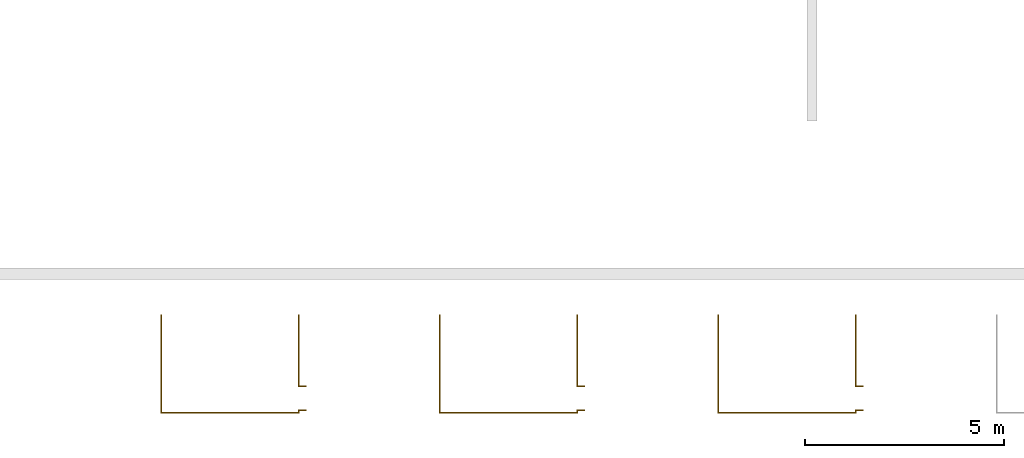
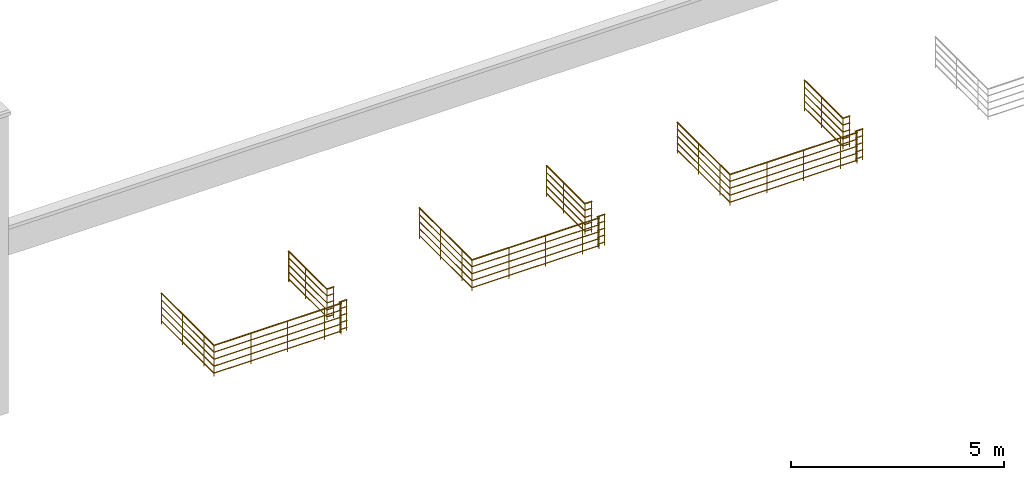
# One storey, part 2 of 6: 6 railings.
"""IFC2X3 building model written with IfcOpenShell, lengths in millimetres."""

from ifc_helpers import new_model, entity, si_unit, converted_unit, derived_unit, direction, frame, frame_2d, origin, origin_2d_with_axis, place, context, subcontext, project, spatial, circle, extrude, element, save


model = new_model("IFC2X3")

# Units and contexts
model_context = context("Model", 3, precision=0.01, world=origin(), true_north=direction((6.12303176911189e-17, 1.0)))
body_context = subcontext(model_context, "Body", "Model", "MODEL_VIEW")
ifc_project = project(units=[si_unit("LENGTHUNIT", "METRE", prefix="MILLI"), si_unit("AREAUNIT", "SQUARE_METRE"), si_unit("VOLUMEUNIT", "CUBIC_METRE"), converted_unit("PLANEANGLEUNIT", "DEGREE", entity("IfcRatioMeasure", 0.0174532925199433), si_unit("PLANEANGLEUNIT", "RADIAN"), dimensions=[0, 0, 0, 0, 0, 0, 0]), si_unit("MASSUNIT", "GRAM", prefix="KILO"), derived_unit("MASSDENSITYUNIT", [(si_unit("MASSUNIT", "GRAM", prefix="KILO"), 1), (si_unit("LENGTHUNIT", "METRE"), -3)]), si_unit("TIMEUNIT", "SECOND"), si_unit("FREQUENCYUNIT", "HERTZ"), si_unit("THERMODYNAMICTEMPERATUREUNIT", "DEGREE_CELSIUS"), derived_unit("THERMALTRANSMITTANCEUNIT", [(si_unit("MASSUNIT", "GRAM", prefix="KILO"), 1), (si_unit("THERMODYNAMICTEMPERATUREUNIT", "KELVIN"), -1), (si_unit("TIMEUNIT", "SECOND"), -3)]), derived_unit("VOLUMETRICFLOWRATEUNIT", [(si_unit("LENGTHUNIT", "METRE"), 3), (si_unit("TIMEUNIT", "SECOND"), -1)]), si_unit("ELECTRICCURRENTUNIT", "AMPERE"), si_unit("ELECTRICVOLTAGEUNIT", "VOLT"), si_unit("POWERUNIT", "WATT"), si_unit("FORCEUNIT", "NEWTON", prefix="KILO"), si_unit("ILLUMINANCEUNIT", "LUX"), si_unit("LUMINOUSFLUXUNIT", "LUMEN"), si_unit("LUMINOUSINTENSITYUNIT", "CANDELA"), derived_unit("USERDEFINED", [(si_unit("MASSUNIT", "GRAM", prefix="KILO"), -1), (si_unit("LENGTHUNIT", "METRE"), -2), (si_unit("TIMEUNIT", "SECOND"), 3), (si_unit("LUMINOUSFLUXUNIT", "LUMEN"), 1)]), derived_unit("LINEARVELOCITYUNIT", [(si_unit("LENGTHUNIT", "METRE"), 1), (si_unit("TIMEUNIT", "SECOND"), -1)]), si_unit("PRESSUREUNIT", "PASCAL"), derived_unit("USERDEFINED", [(si_unit("LENGTHUNIT", "METRE"), -2), (si_unit("MASSUNIT", "GRAM", prefix="KILO"), 1), (si_unit("TIMEUNIT", "SECOND"), -2)])], contexts=[model_context])

# Site, building, storey
site_placement = place(None, origin())
site = spatial("IfcSite", under=ifc_project, at=site_placement, Name="表面", CompositionType="ELEMENT")
building_placement = place(site_placement, origin())
building = spatial("IfcBuilding", under=site, at=building_placement, CompositionType="ELEMENT")
storey_placement = place(building_placement, frame((0.0, 0.0, 3300.0)))
storey = spatial("IfcBuildingStorey", under=building, at=storey_placement, Name="3.3000", CompositionType="ELEMENT", Elevation=3300.0)

# Railings
railing_1_placement = place(storey_placement, origin())
element("IfcRailing", 1, at=railing_1_placement, inside=storey, Name="栏杆扶手:900mm 圆管", ObjectType="栏杆扶手:900mm 圆管", PredefinedType="NOTDEFINED", context=body_context, shape_type="SweptSolid", body=[
    extrude(circle(Radius=12.5, at=origin_2d_with_axis()), frame((-24454.1764764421, -2105.099948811, 500.0), z_axis=(0.0, 0.0, 1.0), x_axis=(0.0, -1.0, 0.0)), (0.0, 0.0, 1.0), 859.999999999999),
    extrude(circle(Radius=12.5, at=origin_2d_with_axis()), frame((-25454.1764764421, -2105.099948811, 500.0), z_axis=(0.0, 0.0, 1.0), x_axis=(0.0, -1.0, 0.0)), (0.0, 0.0, 1.0), 859.999999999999),
    extrude(circle(Radius=12.5, at=origin_2d_with_axis()), frame((-26454.1764764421, -2105.099948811, 500.0), z_axis=(0.0, 0.0, 1.0), x_axis=(0.0, -1.0, 0.0)), (0.0, 0.0, 1.0), 859.999999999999),
    extrude(circle(Radius=12.5, at=frame_2d((4.69078510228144e-28, -2.70716782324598e-13), x_axis=(1.0, 0.0))), frame((-27454.1764764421, -1630.30259261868, 500.0), z_axis=(0.0, 0.0, 1.0), x_axis=(-1.0, 0.0, 0.0)), (0.0, 0.0, 1.0), 859.999999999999),
    extrude(circle(Radius=12.5, at=origin_2d_with_axis()), frame((-27454.1764764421, -630.302592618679, 500.0), z_axis=(0.0, 0.0, 1.0), x_axis=(-1.0, 0.0, 0.0)), (0.0, 0.0, 1.0), 859.999999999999),
    extrude(circle(Radius=12.5, at=frame_2d((0.0, -2.70716782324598e-13), x_axis=(1.0, 0.0))), frame((-24003.7987814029, -2045.09994881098, 500.0)), (0.0, 0.0, 1.0), 859.999999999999),
    extrude(circle(Radius=12.5, at=origin_2d_with_axis()), frame((-24003.7987814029, -2105.099948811, 500.0), z_axis=(0.0, 0.0, 1.0), x_axis=(0.0, -1.0, 0.0)), (0.0, 0.0, 1.0), 859.999999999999),
    extrude(circle(Radius=12.5, at=origin_2d_with_axis()), frame((-27454.1764764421, -2105.09994881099, 500.0), z_axis=(0.0, 0.0, 1.0), x_axis=(-1.0, 0.0, 0.0)), (0.0, 0.0, 1.0), 859.999999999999),
    extrude(circle(Radius=12.5, at=origin_2d_with_axis()), frame((-23821.2987814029, -2045.09994881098, 500.0), z_axis=(0.0, 0.0, 1.0), x_axis=(0.0, -1.0, 0.0)), (0.0, 0.0, 1.0), 859.999999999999),
    extrude(circle(Radius=12.5, at=frame_2d((1.17269627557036e-28, -6.76791955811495e-14), x_axis=(1.0, 0.0))), frame((-27454.1764764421, 357.197407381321, 500.0), z_axis=(0.0, 0.0, 1.0), x_axis=(-1.0, 0.0, 0.0)), (0.0, 0.0, 1.0), 859.999999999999),
    extrude(circle(Radius=20.0, at=origin_2d_with_axis()), frame((-27454.1764764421, -2085.09994881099, 1380.0), z_axis=(0.0, 1.0, 0.0), x_axis=(1.0, 0.0, 0.0)), (0.0, 0.0, 1.0), 2454.79735619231),
    extrude(circle(Radius=20.0, at=origin_2d_with_axis()), frame((-27474.1764764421, -2105.09994881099, 1380.0), z_axis=(1.0, 0.0, 0.0), x_axis=(0.0, 1.0, 0.0)), (0.0, 0.0, 1.0), 3450.37769503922),
    extrude(circle(Radius=20.0, at=origin_2d_with_axis()), frame((-24003.7987814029, -2125.099948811, 1380.0), z_axis=(0.0, 1.0, 0.0), x_axis=(-1.0, 0.0, 0.0)), (0.0, 0.0, 1.0), 60.0000000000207),
    extrude(circle(Radius=20.0, at=origin_2d_with_axis()), frame((-24023.7987814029, -2045.09994881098, 1380.0), z_axis=(1.0, 0.0, 0.0), x_axis=(0.0, 1.0, 0.0)), (0.0, 0.0, 1.0), 215.000000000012),
    extrude(circle(Radius=15.0, at=origin_2d_with_axis()), frame((-27454.1764764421, -2090.09994881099, 1185.0), z_axis=(0.0, 1.0, 0.0), x_axis=(1.0, 0.0, 0.0)), (0.0, 0.0, 1.0), 2459.79735619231),
    extrude(circle(Radius=15.0, at=origin_2d_with_axis()), frame((-27469.1764764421, -2105.09994881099, 1185.0), z_axis=(1.0, 0.0, 0.0), x_axis=(0.0, 1.0, 0.0)), (0.0, 0.0, 1.0), 3450.37769503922),
    extrude(circle(Radius=15.0, at=origin_2d_with_axis()), frame((-24003.7987814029, -2120.099948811, 1185.0), z_axis=(0.0, 1.0, 0.0), x_axis=(-1.0, 0.0, 0.0)), (0.0, 0.0, 1.0), 60.000000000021),
    extrude(circle(Radius=15.0, at=origin_2d_with_axis()), frame((-24018.7987814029, -2045.09994881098, 1185.0), z_axis=(1.0, 0.0, 0.0), x_axis=(0.0, 1.0, 0.0)), (0.0, 0.0, 1.0), 210.000000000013),
    extrude(circle(Radius=15.0, at=origin_2d_with_axis()), frame((-27454.1764764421, -2090.09994881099, 985.0), z_axis=(0.0, 1.0, 0.0), x_axis=(1.0, 0.0, 0.0)), (0.0, 0.0, 1.0), 2459.79735619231),
    extrude(circle(Radius=15.0, at=origin_2d_with_axis()), frame((-27469.1764764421, -2105.09994881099, 985.0), z_axis=(1.0, 0.0, 0.0), x_axis=(0.0, 1.0, 0.0)), (0.0, 0.0, 1.0), 3450.37769503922),
    extrude(circle(Radius=15.0, at=origin_2d_with_axis()), frame((-24003.7987814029, -2120.099948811, 985.0), z_axis=(0.0, 1.0, 0.0), x_axis=(-1.0, 0.0, 0.0)), (0.0, 0.0, 1.0), 60.000000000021),
    extrude(circle(Radius=15.0, at=origin_2d_with_axis()), frame((-24018.7987814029, -2045.09994881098, 985.0), z_axis=(1.0, 0.0, 0.0), x_axis=(0.0, 1.0, 0.0)), (0.0, 0.0, 1.0), 210.000000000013),
    extrude(circle(Radius=15.0, at=origin_2d_with_axis()), frame((-27454.1764764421, -2090.09994881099, 785.0), z_axis=(0.0, 1.0, 0.0), x_axis=(1.0, 0.0, 0.0)), (0.0, 0.0, 1.0), 2459.79735619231),
    extrude(circle(Radius=15.0, at=origin_2d_with_axis()), frame((-27469.1764764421, -2105.09994881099, 785.0), z_axis=(1.0, 0.0, 0.0), x_axis=(0.0, 1.0, 0.0)), (0.0, 0.0, 1.0), 3450.37769503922),
    extrude(circle(Radius=15.0, at=origin_2d_with_axis()), frame((-24003.7987814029, -2120.099948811, 785.0), z_axis=(0.0, 1.0, 0.0), x_axis=(-1.0, 0.0, 0.0)), (0.0, 0.0, 1.0), 60.000000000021),
    extrude(circle(Radius=15.0, at=origin_2d_with_axis()), frame((-24018.7987814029, -2045.09994881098, 785.0), z_axis=(1.0, 0.0, 0.0), x_axis=(0.0, 1.0, 0.0)), (0.0, 0.0, 1.0), 210.000000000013),
    extrude(circle(Radius=15.0, at=origin_2d_with_axis()), frame((-27454.1764764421, -2090.09994881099, 585.0), z_axis=(0.0, 1.0, 0.0), x_axis=(1.0, 0.0, 0.0)), (0.0, 0.0, 1.0), 2459.79735619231),
    extrude(circle(Radius=15.0, at=origin_2d_with_axis()), frame((-27469.1764764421, -2105.09994881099, 585.0), z_axis=(1.0, 0.0, 0.0), x_axis=(0.0, 1.0, 0.0)), (0.0, 0.0, 1.0), 3450.37769503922),
    extrude(circle(Radius=15.0, at=origin_2d_with_axis()), frame((-24003.7987814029, -2120.099948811, 585.0), z_axis=(0.0, 1.0, 0.0), x_axis=(-1.0, 0.0, 0.0)), (0.0, 0.0, 1.0), 60.000000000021),
    extrude(circle(Radius=15.0, at=origin_2d_with_axis()), frame((-24018.7987814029, -2045.09994881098, 585.0), z_axis=(1.0, 0.0, 0.0), x_axis=(0.0, 1.0, 0.0)), (0.0, 0.0, 1.0), 210.000000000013),
])
railing_2_placement = place(storey_placement, origin())
element("IfcRailing", 2, at=railing_2_placement, inside=storey, Name="栏杆扶手:900mm 圆管", ObjectType="栏杆扶手:900mm 圆管", PredefinedType="NOTDEFINED", context=body_context, shape_type="SweptSolid", body=[
    extrude(circle(Radius=12.5, at=frame_2d((3.29419867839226e-28, -1.35358391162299e-13), x_axis=(1.0, 0.0))), frame((-24003.7987814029, -435.09994881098, 500.0)), (0.0, 0.0, 1.0), 859.999999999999),
    extrude(circle(Radius=12.5, at=origin_2d_with_axis()), frame((-24003.7987814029, -1435.09994881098, 500.0), z_axis=(0.0, 0.0, 1.0), x_axis=(0.0, 1.0, 0.0)), (0.0, 0.0, 1.0), 859.999999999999),
    extrude(circle(Radius=12.5, at=frame_2d((3.29419867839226e-28, -1.35358391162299e-13), x_axis=(1.0, 0.0))), frame((-24003.7987814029, 357.197407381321, 500.0)), (0.0, 0.0, 1.0), 859.999999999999),
    extrude(circle(Radius=12.5, at=origin_2d_with_axis()), frame((-23821.2987814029, -1435.09994881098, 500.0), z_axis=(0.0, 0.0, 1.0), x_axis=(0.0, 1.0, 0.0)), (0.0, 0.0, 1.0), 859.999999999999),
    extrude(circle(Radius=20.0, at=origin_2d_with_axis()), frame((-23983.7987814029, -1435.09994881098, 1380.0), z_axis=(1.0, 0.0, 0.0), x_axis=(0.0, -1.0, 0.0)), (0.0, 0.0, 1.0), 175.000000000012),
    extrude(circle(Radius=20.0, at=origin_2d_with_axis()), frame((-24003.7987814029, -1455.09994881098, 1380.0), z_axis=(0.0, 1.0, 0.0), x_axis=(-1.0, 0.0, 0.0)), (0.0, 0.0, 1.0), 1824.7973561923),
    extrude(circle(Radius=15.0, at=origin_2d_with_axis()), frame((-23988.7987814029, -1435.09994881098, 1185.0), z_axis=(1.0, 0.0, 0.0), x_axis=(0.0, -1.0, 0.0)), (0.0, 0.0, 1.0), 180.000000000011),
    extrude(circle(Radius=15.0, at=origin_2d_with_axis()), frame((-24003.7987814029, -1450.09994881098, 1185.0), z_axis=(0.0, 1.0, 0.0), x_axis=(-1.0, 0.0, 0.0)), (0.0, 0.0, 1.0), 1819.7973561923),
    extrude(circle(Radius=15.0, at=origin_2d_with_axis()), frame((-23988.7987814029, -1435.09994881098, 985.0), z_axis=(1.0, 0.0, 0.0), x_axis=(0.0, -1.0, 0.0)), (0.0, 0.0, 1.0), 180.000000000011),
    extrude(circle(Radius=15.0, at=origin_2d_with_axis()), frame((-24003.7987814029, -1450.09994881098, 985.0), z_axis=(0.0, 1.0, 0.0), x_axis=(-1.0, 0.0, 0.0)), (0.0, 0.0, 1.0), 1819.7973561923),
    extrude(circle(Radius=15.0, at=origin_2d_with_axis()), frame((-23988.7987814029, -1435.09994881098, 785.0), z_axis=(1.0, 0.0, 0.0), x_axis=(0.0, -1.0, 0.0)), (0.0, 0.0, 1.0), 180.000000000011),
    extrude(circle(Radius=15.0, at=origin_2d_with_axis()), frame((-24003.7987814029, -1450.09994881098, 785.0), z_axis=(0.0, 1.0, 0.0), x_axis=(-1.0, 0.0, 0.0)), (0.0, 0.0, 1.0), 1819.7973561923),
    extrude(circle(Radius=15.0, at=origin_2d_with_axis()), frame((-23988.7987814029, -1435.09994881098, 585.0), z_axis=(1.0, 0.0, 0.0), x_axis=(0.0, -1.0, 0.0)), (0.0, 0.0, 1.0), 180.000000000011),
    extrude(circle(Radius=15.0, at=origin_2d_with_axis()), frame((-24003.7987814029, -1450.09994881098, 585.0), z_axis=(0.0, 1.0, 0.0), x_axis=(-1.0, 0.0, 0.0)), (0.0, 0.0, 1.0), 1819.7973561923),
])
railing_3_placement = place(storey_placement, origin())
element("IfcRailing", 3, at=railing_3_placement, inside=storey, Name="栏杆扶手:900mm 圆管", ObjectType="栏杆扶手:900mm 圆管", PredefinedType="NOTDEFINED", context=body_context, shape_type="SweptSolid", body=[
    extrude(circle(Radius=12.5, at=origin_2d_with_axis()), frame((-17454.1764764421, -2105.09994881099, 500.0), z_axis=(0.0, 0.0, 1.0), x_axis=(0.0, -1.0, 0.0)), (0.0, 0.0, 1.0), 859.999999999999),
    extrude(circle(Radius=12.5, at=origin_2d_with_axis()), frame((-18454.1764764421, -2105.09994881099, 500.0), z_axis=(0.0, 0.0, 1.0), x_axis=(0.0, -1.0, 0.0)), (0.0, 0.0, 1.0), 859.999999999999),
    extrude(circle(Radius=12.5, at=origin_2d_with_axis()), frame((-19454.1764764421, -2105.09994881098, 500.0), z_axis=(0.0, 0.0, 1.0), x_axis=(0.0, -1.0, 0.0)), (0.0, 0.0, 1.0), 859.999999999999),
    extrude(circle(Radius=12.5, at=frame_2d((4.69078510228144e-28, -2.70716782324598e-13), x_axis=(1.0, 0.0))), frame((-20454.1764764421, -1630.30259261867, 500.0), z_axis=(0.0, 0.0, 1.0), x_axis=(-1.0, 0.0, 0.0)), (0.0, 0.0, 1.0), 859.999999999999),
    extrude(circle(Radius=12.5, at=origin_2d_with_axis()), frame((-20454.1764764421, -630.302592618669, 500.0), z_axis=(0.0, 0.0, 1.0), x_axis=(-1.0, 0.0, 0.0)), (0.0, 0.0, 1.0), 859.999999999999),
    extrude(circle(Radius=12.5, at=frame_2d((0.0, -2.70716782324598e-13), x_axis=(1.0, 0.0))), frame((-17003.7987814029, -2045.09994881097, 500.0)), (0.0, 0.0, 1.0), 859.999999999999),
    extrude(circle(Radius=12.5, at=origin_2d_with_axis()), frame((-17003.7987814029, -2105.09994881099, 500.0), z_axis=(0.0, 0.0, 1.0), x_axis=(0.0, -1.0, 0.0)), (0.0, 0.0, 1.0), 859.999999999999),
    extrude(circle(Radius=12.5, at=origin_2d_with_axis()), frame((-20454.1764764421, -2105.09994881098, 500.0), z_axis=(0.0, 0.0, 1.0), x_axis=(-1.0, 0.0, 0.0)), (0.0, 0.0, 1.0), 859.999999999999),
    extrude(circle(Radius=12.5, at=origin_2d_with_axis()), frame((-16821.2987814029, -2045.09994881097, 500.0), z_axis=(0.0, 0.0, 1.0), x_axis=(0.0, -1.0, 0.0)), (0.0, 0.0, 1.0), 859.999999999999),
    extrude(circle(Radius=12.5, at=frame_2d((1.17269627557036e-28, -6.76791955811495e-14), x_axis=(1.0, 0.0))), frame((-20454.1764764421, 357.197407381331, 500.0), z_axis=(0.0, 0.0, 1.0), x_axis=(-1.0, 0.0, 0.0)), (0.0, 0.0, 1.0), 859.999999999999),
    extrude(circle(Radius=20.0, at=origin_2d_with_axis()), frame((-20454.1764764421, -2085.09994881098, 1380.0), z_axis=(0.0, 1.0, 0.0), x_axis=(1.0, 0.0, 0.0)), (0.0, 0.0, 1.0), 2454.79735619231),
    extrude(circle(Radius=20.0, at=origin_2d_with_axis()), frame((-20474.1764764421, -2105.09994881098, 1380.0), z_axis=(1.0, 0.0, 0.0), x_axis=(0.0, 1.0, 0.0)), (0.0, 0.0, 1.0), 3450.37769503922),
    extrude(circle(Radius=20.0, at=origin_2d_with_axis()), frame((-17003.7987814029, -2125.09994881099, 1380.0), z_axis=(0.0, 1.0, 0.0), x_axis=(-1.0, 0.0, 0.0)), (0.0, 0.0, 1.0), 60.0000000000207),
    extrude(circle(Radius=20.0, at=origin_2d_with_axis()), frame((-17023.7987814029, -2045.09994881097, 1380.0), z_axis=(1.0, 0.0, 0.0), x_axis=(0.0, 1.0, 0.0)), (0.0, 0.0, 1.0), 215.000000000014),
    extrude(circle(Radius=15.0, at=origin_2d_with_axis()), frame((-20454.1764764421, -2090.09994881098, 1185.0), z_axis=(0.0, 1.0, 0.0), x_axis=(1.0, 0.0, 0.0)), (0.0, 0.0, 1.0), 2459.79735619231),
    extrude(circle(Radius=15.0, at=origin_2d_with_axis()), frame((-20469.1764764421, -2105.09994881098, 1185.0), z_axis=(1.0, 0.0, 0.0), x_axis=(0.0, 1.0, 0.0)), (0.0, 0.0, 1.0), 3450.37769503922),
    extrude(circle(Radius=15.0, at=origin_2d_with_axis()), frame((-17003.7987814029, -2120.09994881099, 1185.0), z_axis=(0.0, 1.0, 0.0), x_axis=(-1.0, 0.0, 0.0)), (0.0, 0.0, 1.0), 60.000000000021),
    extrude(circle(Radius=15.0, at=origin_2d_with_axis()), frame((-17018.7987814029, -2045.09994881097, 1185.0), z_axis=(1.0, 0.0, 0.0), x_axis=(0.0, 1.0, 0.0)), (0.0, 0.0, 1.0), 210.000000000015),
    extrude(circle(Radius=15.0, at=origin_2d_with_axis()), frame((-20454.1764764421, -2090.09994881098, 985.0), z_axis=(0.0, 1.0, 0.0), x_axis=(1.0, 0.0, 0.0)), (0.0, 0.0, 1.0), 2459.79735619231),
    extrude(circle(Radius=15.0, at=origin_2d_with_axis()), frame((-20469.1764764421, -2105.09994881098, 985.0), z_axis=(1.0, 0.0, 0.0), x_axis=(0.0, 1.0, 0.0)), (0.0, 0.0, 1.0), 3450.37769503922),
    extrude(circle(Radius=15.0, at=origin_2d_with_axis()), frame((-17003.7987814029, -2120.09994881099, 985.0), z_axis=(0.0, 1.0, 0.0), x_axis=(-1.0, 0.0, 0.0)), (0.0, 0.0, 1.0), 60.000000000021),
    extrude(circle(Radius=15.0, at=origin_2d_with_axis()), frame((-17018.7987814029, -2045.09994881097, 985.0), z_axis=(1.0, 0.0, 0.0), x_axis=(0.0, 1.0, 0.0)), (0.0, 0.0, 1.0), 210.000000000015),
    extrude(circle(Radius=15.0, at=origin_2d_with_axis()), frame((-20454.1764764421, -2090.09994881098, 785.0), z_axis=(0.0, 1.0, 0.0), x_axis=(1.0, 0.0, 0.0)), (0.0, 0.0, 1.0), 2459.79735619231),
    extrude(circle(Radius=15.0, at=origin_2d_with_axis()), frame((-20469.1764764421, -2105.09994881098, 785.0), z_axis=(1.0, 0.0, 0.0), x_axis=(0.0, 1.0, 0.0)), (0.0, 0.0, 1.0), 3450.37769503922),
    extrude(circle(Radius=15.0, at=origin_2d_with_axis()), frame((-17003.7987814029, -2120.09994881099, 785.0), z_axis=(0.0, 1.0, 0.0), x_axis=(-1.0, 0.0, 0.0)), (0.0, 0.0, 1.0), 60.000000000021),
    extrude(circle(Radius=15.0, at=origin_2d_with_axis()), frame((-17018.7987814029, -2045.09994881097, 785.0), z_axis=(1.0, 0.0, 0.0), x_axis=(0.0, 1.0, 0.0)), (0.0, 0.0, 1.0), 210.000000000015),
    extrude(circle(Radius=15.0, at=origin_2d_with_axis()), frame((-20454.1764764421, -2090.09994881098, 585.0), z_axis=(0.0, 1.0, 0.0), x_axis=(1.0, 0.0, 0.0)), (0.0, 0.0, 1.0), 2459.79735619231),
    extrude(circle(Radius=15.0, at=origin_2d_with_axis()), frame((-20469.1764764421, -2105.09994881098, 585.0), z_axis=(1.0, 0.0, 0.0), x_axis=(0.0, 1.0, 0.0)), (0.0, 0.0, 1.0), 3450.37769503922),
    extrude(circle(Radius=15.0, at=origin_2d_with_axis()), frame((-17003.7987814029, -2120.09994881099, 585.0), z_axis=(0.0, 1.0, 0.0), x_axis=(-1.0, 0.0, 0.0)), (0.0, 0.0, 1.0), 60.000000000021),
    extrude(circle(Radius=15.0, at=origin_2d_with_axis()), frame((-17018.7987814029, -2045.09994881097, 585.0), z_axis=(1.0, 0.0, 0.0), x_axis=(0.0, 1.0, 0.0)), (0.0, 0.0, 1.0), 210.000000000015),
])
railing_4_placement = place(storey_placement, origin())
element("IfcRailing", 4, at=railing_4_placement, inside=storey, Name="栏杆扶手:900mm 圆管", ObjectType="栏杆扶手:900mm 圆管", PredefinedType="NOTDEFINED", context=body_context, shape_type="SweptSolid", body=[
    extrude(circle(Radius=12.5, at=frame_2d((3.29419867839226e-28, -1.35358391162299e-13), x_axis=(1.0, 0.0))), frame((-17003.7987814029, -435.09994881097, 500.0)), (0.0, 0.0, 1.0), 859.999999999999),
    extrude(circle(Radius=12.5, at=origin_2d_with_axis()), frame((-17003.7987814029, -1435.09994881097, 500.0), z_axis=(0.0, 0.0, 1.0), x_axis=(0.0, 1.0, 0.0)), (0.0, 0.0, 1.0), 859.999999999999),
    extrude(circle(Radius=12.5, at=frame_2d((3.29419867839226e-28, -1.35358391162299e-13), x_axis=(1.0, 0.0))), frame((-17003.7987814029, 357.197407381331, 500.0)), (0.0, 0.0, 1.0), 859.999999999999),
    extrude(circle(Radius=12.5, at=origin_2d_with_axis()), frame((-16821.2987814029, -1435.09994881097, 500.0), z_axis=(0.0, 0.0, 1.0), x_axis=(0.0, 1.0, 0.0)), (0.0, 0.0, 1.0), 859.999999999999),
    extrude(circle(Radius=20.0, at=origin_2d_with_axis()), frame((-16983.7987814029, -1435.09994881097, 1380.0), z_axis=(1.0, 0.0, 0.0), x_axis=(0.0, -1.0, 0.0)), (0.0, 0.0, 1.0), 175.000000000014),
    extrude(circle(Radius=20.0, at=origin_2d_with_axis()), frame((-17003.7987814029, -1455.09994881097, 1380.0), z_axis=(0.0, 1.0, 0.0), x_axis=(-1.0, 0.0, 0.0)), (0.0, 0.0, 1.0), 1824.7973561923),
    extrude(circle(Radius=15.0, at=origin_2d_with_axis()), frame((-16988.7987814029, -1435.09994881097, 1185.0), z_axis=(1.0, 0.0, 0.0), x_axis=(0.0, -1.0, 0.0)), (0.0, 0.0, 1.0), 180.000000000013),
    extrude(circle(Radius=15.0, at=origin_2d_with_axis()), frame((-17003.7987814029, -1450.09994881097, 1185.0), z_axis=(0.0, 1.0, 0.0), x_axis=(-1.0, 0.0, 0.0)), (0.0, 0.0, 1.0), 1819.7973561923),
    extrude(circle(Radius=15.0, at=origin_2d_with_axis()), frame((-16988.7987814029, -1435.09994881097, 985.0), z_axis=(1.0, 0.0, 0.0), x_axis=(0.0, -1.0, 0.0)), (0.0, 0.0, 1.0), 180.000000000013),
    extrude(circle(Radius=15.0, at=origin_2d_with_axis()), frame((-17003.7987814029, -1450.09994881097, 985.0), z_axis=(0.0, 1.0, 0.0), x_axis=(-1.0, 0.0, 0.0)), (0.0, 0.0, 1.0), 1819.7973561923),
    extrude(circle(Radius=15.0, at=origin_2d_with_axis()), frame((-16988.7987814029, -1435.09994881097, 785.0), z_axis=(1.0, 0.0, 0.0), x_axis=(0.0, -1.0, 0.0)), (0.0, 0.0, 1.0), 180.000000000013),
    extrude(circle(Radius=15.0, at=origin_2d_with_axis()), frame((-17003.7987814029, -1450.09994881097, 785.0), z_axis=(0.0, 1.0, 0.0), x_axis=(-1.0, 0.0, 0.0)), (0.0, 0.0, 1.0), 1819.7973561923),
    extrude(circle(Radius=15.0, at=origin_2d_with_axis()), frame((-16988.7987814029, -1435.09994881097, 585.0), z_axis=(1.0, 0.0, 0.0), x_axis=(0.0, -1.0, 0.0)), (0.0, 0.0, 1.0), 180.000000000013),
    extrude(circle(Radius=15.0, at=origin_2d_with_axis()), frame((-17003.7987814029, -1450.09994881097, 585.0), z_axis=(0.0, 1.0, 0.0), x_axis=(-1.0, 0.0, 0.0)), (0.0, 0.0, 1.0), 1819.7973561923),
])
railing_5_placement = place(storey_placement, origin())
element("IfcRailing", 5, at=railing_5_placement, inside=storey, Name="栏杆扶手:900mm 圆管", ObjectType="栏杆扶手:900mm 圆管", PredefinedType="NOTDEFINED", context=body_context, shape_type="SweptSolid", body=[
    extrude(circle(Radius=12.5, at=origin_2d_with_axis()), frame((-10454.176476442, -2105.09994881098, 500.0), z_axis=(0.0, 0.0, 1.0), x_axis=(0.0, -1.0, 0.0)), (0.0, 0.0, 1.0), 859.999999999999),
    extrude(circle(Radius=12.5, at=origin_2d_with_axis()), frame((-11454.176476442, -2105.09994881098, 500.0), z_axis=(0.0, 0.0, 1.0), x_axis=(0.0, -1.0, 0.0)), (0.0, 0.0, 1.0), 859.999999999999),
    extrude(circle(Radius=12.5, at=origin_2d_with_axis()), frame((-12454.176476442, -2105.09994881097, 500.0), z_axis=(0.0, 0.0, 1.0), x_axis=(0.0, -1.0, 0.0)), (0.0, 0.0, 1.0), 859.999999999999),
    extrude(circle(Radius=12.5, at=frame_2d((4.69078510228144e-28, -2.70716782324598e-13), x_axis=(1.0, 0.0))), frame((-13454.176476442, -1630.30259261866, 500.0), z_axis=(0.0, 0.0, 1.0), x_axis=(-1.0, 0.0, 0.0)), (0.0, 0.0, 1.0), 859.999999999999),
    extrude(circle(Radius=12.5, at=origin_2d_with_axis()), frame((-13454.176476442, -630.302592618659, 500.0), z_axis=(0.0, 0.0, 1.0), x_axis=(-1.0, 0.0, 0.0)), (0.0, 0.0, 1.0), 859.999999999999),
    extrude(circle(Radius=12.5, at=frame_2d((0.0, -2.70716782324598e-13), x_axis=(1.0, 0.0))), frame((-10003.7987814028, -2045.09994881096, 500.0)), (0.0, 0.0, 1.0), 859.999999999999),
    extrude(circle(Radius=12.5, at=origin_2d_with_axis()), frame((-10003.7987814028, -2105.09994881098, 500.0), z_axis=(0.0, 0.0, 1.0), x_axis=(0.0, -1.0, 0.0)), (0.0, 0.0, 1.0), 859.999999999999),
    extrude(circle(Radius=12.5, at=origin_2d_with_axis()), frame((-13454.176476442, -2105.09994881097, 500.0), z_axis=(0.0, 0.0, 1.0), x_axis=(-1.0, 0.0, 0.0)), (0.0, 0.0, 1.0), 859.999999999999),
    extrude(circle(Radius=12.5, at=origin_2d_with_axis()), frame((-9821.2987814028, -2045.09994881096, 500.0), z_axis=(0.0, 0.0, 1.0), x_axis=(0.0, -1.0, 0.0)), (0.0, 0.0, 1.0), 859.999999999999),
    extrude(circle(Radius=12.5, at=frame_2d((1.17269627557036e-28, -6.76791955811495e-14), x_axis=(1.0, 0.0))), frame((-13454.176476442, 357.197407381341, 500.0), z_axis=(0.0, 0.0, 1.0), x_axis=(-1.0, 0.0, 0.0)), (0.0, 0.0, 1.0), 859.999999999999),
    extrude(circle(Radius=20.0, at=origin_2d_with_axis()), frame((-13454.176476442, -2085.09994881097, 1380.0), z_axis=(0.0, 1.0, 0.0), x_axis=(1.0, 0.0, 0.0)), (0.0, 0.0, 1.0), 2454.79735619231),
    extrude(circle(Radius=20.0, at=origin_2d_with_axis()), frame((-13474.176476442, -2105.09994881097, 1380.0), z_axis=(1.0, 0.0, 0.0), x_axis=(0.0, 1.0, 0.0)), (0.0, 0.0, 1.0), 3450.37769503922),
    extrude(circle(Radius=20.0, at=origin_2d_with_axis()), frame((-10003.7987814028, -2125.09994881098, 1380.0), z_axis=(0.0, 1.0, 0.0), x_axis=(-1.0, 0.0, 0.0)), (0.0, 0.0, 1.0), 60.0000000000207),
    extrude(circle(Radius=20.0, at=origin_2d_with_axis()), frame((-10023.7987814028, -2045.09994881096, 1380.0), z_axis=(1.0, 0.0, 0.0), x_axis=(0.0, 1.0, 0.0)), (0.0, 0.0, 1.0), 215.000000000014),
    extrude(circle(Radius=15.0, at=origin_2d_with_axis()), frame((-13454.176476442, -2090.09994881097, 1185.0), z_axis=(0.0, 1.0, 0.0), x_axis=(1.0, 0.0, 0.0)), (0.0, 0.0, 1.0), 2459.79735619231),
    extrude(circle(Radius=15.0, at=origin_2d_with_axis()), frame((-13469.176476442, -2105.09994881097, 1185.0), z_axis=(1.0, 0.0, 0.0), x_axis=(0.0, 1.0, 0.0)), (0.0, 0.0, 1.0), 3450.37769503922),
    extrude(circle(Radius=15.0, at=origin_2d_with_axis()), frame((-10003.7987814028, -2120.09994881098, 1185.0), z_axis=(0.0, 1.0, 0.0), x_axis=(-1.0, 0.0, 0.0)), (0.0, 0.0, 1.0), 60.000000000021),
    extrude(circle(Radius=15.0, at=origin_2d_with_axis()), frame((-10018.7987814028, -2045.09994881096, 1185.0), z_axis=(1.0, 0.0, 0.0), x_axis=(0.0, 1.0, 0.0)), (0.0, 0.0, 1.0), 210.000000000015),
    extrude(circle(Radius=15.0, at=origin_2d_with_axis()), frame((-13454.176476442, -2090.09994881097, 985.0), z_axis=(0.0, 1.0, 0.0), x_axis=(1.0, 0.0, 0.0)), (0.0, 0.0, 1.0), 2459.79735619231),
    extrude(circle(Radius=15.0, at=origin_2d_with_axis()), frame((-13469.176476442, -2105.09994881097, 985.0), z_axis=(1.0, 0.0, 0.0), x_axis=(0.0, 1.0, 0.0)), (0.0, 0.0, 1.0), 3450.37769503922),
    extrude(circle(Radius=15.0, at=origin_2d_with_axis()), frame((-10003.7987814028, -2120.09994881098, 985.0), z_axis=(0.0, 1.0, 0.0), x_axis=(-1.0, 0.0, 0.0)), (0.0, 0.0, 1.0), 60.000000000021),
    extrude(circle(Radius=15.0, at=origin_2d_with_axis()), frame((-10018.7987814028, -2045.09994881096, 985.0), z_axis=(1.0, 0.0, 0.0), x_axis=(0.0, 1.0, 0.0)), (0.0, 0.0, 1.0), 210.000000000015),
    extrude(circle(Radius=15.0, at=origin_2d_with_axis()), frame((-13454.176476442, -2090.09994881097, 785.0), z_axis=(0.0, 1.0, 0.0), x_axis=(1.0, 0.0, 0.0)), (0.0, 0.0, 1.0), 2459.79735619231),
    extrude(circle(Radius=15.0, at=origin_2d_with_axis()), frame((-13469.176476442, -2105.09994881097, 785.0), z_axis=(1.0, 0.0, 0.0), x_axis=(0.0, 1.0, 0.0)), (0.0, 0.0, 1.0), 3450.37769503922),
    extrude(circle(Radius=15.0, at=origin_2d_with_axis()), frame((-10003.7987814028, -2120.09994881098, 785.0), z_axis=(0.0, 1.0, 0.0), x_axis=(-1.0, 0.0, 0.0)), (0.0, 0.0, 1.0), 60.000000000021),
    extrude(circle(Radius=15.0, at=origin_2d_with_axis()), frame((-10018.7987814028, -2045.09994881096, 785.0), z_axis=(1.0, 0.0, 0.0), x_axis=(0.0, 1.0, 0.0)), (0.0, 0.0, 1.0), 210.000000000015),
    extrude(circle(Radius=15.0, at=origin_2d_with_axis()), frame((-13454.176476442, -2090.09994881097, 585.0), z_axis=(0.0, 1.0, 0.0), x_axis=(1.0, 0.0, 0.0)), (0.0, 0.0, 1.0), 2459.79735619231),
    extrude(circle(Radius=15.0, at=origin_2d_with_axis()), frame((-13469.176476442, -2105.09994881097, 585.0), z_axis=(1.0, 0.0, 0.0), x_axis=(0.0, 1.0, 0.0)), (0.0, 0.0, 1.0), 3450.37769503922),
    extrude(circle(Radius=15.0, at=origin_2d_with_axis()), frame((-10003.7987814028, -2120.09994881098, 585.0), z_axis=(0.0, 1.0, 0.0), x_axis=(-1.0, 0.0, 0.0)), (0.0, 0.0, 1.0), 60.000000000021),
    extrude(circle(Radius=15.0, at=origin_2d_with_axis()), frame((-10018.7987814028, -2045.09994881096, 585.0), z_axis=(1.0, 0.0, 0.0), x_axis=(0.0, 1.0, 0.0)), (0.0, 0.0, 1.0), 210.000000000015),
])
railing_6_placement = place(storey_placement, origin())
element("IfcRailing", 6, at=railing_6_placement, inside=storey, Name="栏杆扶手:900mm 圆管", ObjectType="栏杆扶手:900mm 圆管", PredefinedType="NOTDEFINED", context=body_context, shape_type="SweptSolid", body=[
    extrude(circle(Radius=12.5, at=frame_2d((3.29419867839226e-28, -1.35358391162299e-13), x_axis=(1.0, 0.0))), frame((-10003.7987814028, -435.09994881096, 500.0)), (0.0, 0.0, 1.0), 859.999999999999),
    extrude(circle(Radius=12.5, at=origin_2d_with_axis()), frame((-10003.7987814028, -1435.09994881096, 500.0), z_axis=(0.0, 0.0, 1.0), x_axis=(0.0, 1.0, 0.0)), (0.0, 0.0, 1.0), 859.999999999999),
    extrude(circle(Radius=12.5, at=frame_2d((3.29419867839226e-28, -1.35358391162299e-13), x_axis=(1.0, 0.0))), frame((-10003.7987814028, 357.197407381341, 500.0)), (0.0, 0.0, 1.0), 859.999999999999),
    extrude(circle(Radius=12.5, at=origin_2d_with_axis()), frame((-9821.2987814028, -1435.09994881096, 500.0), z_axis=(0.0, 0.0, 1.0), x_axis=(0.0, 1.0, 0.0)), (0.0, 0.0, 1.0), 859.999999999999),
    extrude(circle(Radius=20.0, at=origin_2d_with_axis()), frame((-9983.79878140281, -1435.09994881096, 1380.0), z_axis=(1.0, 0.0, 0.0), x_axis=(0.0, -1.0, 0.0)), (0.0, 0.0, 1.0), 175.000000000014),
    extrude(circle(Radius=20.0, at=origin_2d_with_axis()), frame((-10003.7987814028, -1455.09994881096, 1380.0), z_axis=(0.0, 1.0, 0.0), x_axis=(-1.0, 0.0, 0.0)), (0.0, 0.0, 1.0), 1824.7973561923),
    extrude(circle(Radius=15.0, at=origin_2d_with_axis()), frame((-9988.79878140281, -1435.09994881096, 1185.0), z_axis=(1.0, 0.0, 0.0), x_axis=(0.0, -1.0, 0.0)), (0.0, 0.0, 1.0), 180.000000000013),
    extrude(circle(Radius=15.0, at=origin_2d_with_axis()), frame((-10003.7987814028, -1450.09994881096, 1185.0), z_axis=(0.0, 1.0, 0.0), x_axis=(-1.0, 0.0, 0.0)), (0.0, 0.0, 1.0), 1819.7973561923),
    extrude(circle(Radius=15.0, at=origin_2d_with_axis()), frame((-9988.79878140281, -1435.09994881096, 985.0), z_axis=(1.0, 0.0, 0.0), x_axis=(0.0, -1.0, 0.0)), (0.0, 0.0, 1.0), 180.000000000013),
    extrude(circle(Radius=15.0, at=origin_2d_with_axis()), frame((-10003.7987814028, -1450.09994881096, 985.0), z_axis=(0.0, 1.0, 0.0), x_axis=(-1.0, 0.0, 0.0)), (0.0, 0.0, 1.0), 1819.7973561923),
    extrude(circle(Radius=15.0, at=origin_2d_with_axis()), frame((-9988.79878140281, -1435.09994881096, 785.0), z_axis=(1.0, 0.0, 0.0), x_axis=(0.0, -1.0, 0.0)), (0.0, 0.0, 1.0), 180.000000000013),
    extrude(circle(Radius=15.0, at=origin_2d_with_axis()), frame((-10003.7987814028, -1450.09994881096, 785.0), z_axis=(0.0, 1.0, 0.0), x_axis=(-1.0, 0.0, 0.0)), (0.0, 0.0, 1.0), 1819.7973561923),
    extrude(circle(Radius=15.0, at=origin_2d_with_axis()), frame((-9988.79878140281, -1435.09994881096, 585.0), z_axis=(1.0, 0.0, 0.0), x_axis=(0.0, -1.0, 0.0)), (0.0, 0.0, 1.0), 180.000000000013),
    extrude(circle(Radius=15.0, at=origin_2d_with_axis()), frame((-10003.7987814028, -1450.09994881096, 585.0), z_axis=(0.0, 1.0, 0.0), x_axis=(-1.0, 0.0, 0.0)), (0.0, 0.0, 1.0), 1819.7973561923),
])

save(model, "model.ifc")
